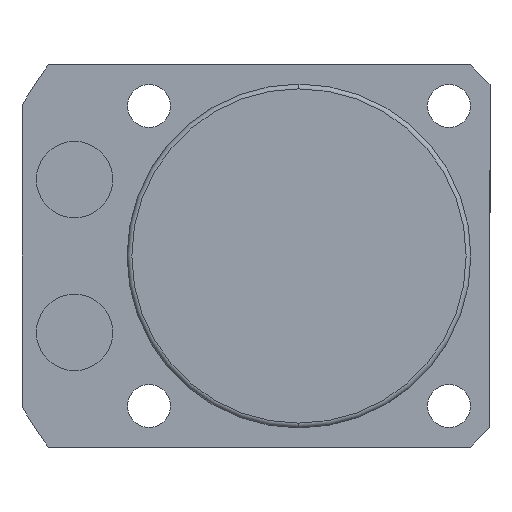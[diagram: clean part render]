
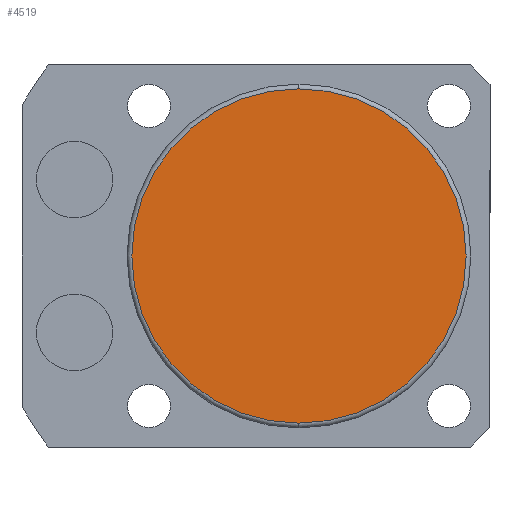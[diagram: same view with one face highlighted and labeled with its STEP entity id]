
A CAD part, front view. The second image highlights one B-rep face of the part: STEP entity #4519.
In plain terms, the highlighted planar face has unit normal (0, -1, 0).
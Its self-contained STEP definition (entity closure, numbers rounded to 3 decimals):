
#1554 = CARTESIAN_POINT ( 'NONE',  ( 0., -110.5, 17.5 ) ) ;
#1577 = CARTESIAN_POINT ( 'NONE',  ( 0., -110.5, 0. ) ) ;
#1967 = AXIS2_PLACEMENT_3D ( 'NONE', #2296, #4611, #4654 ) ;
#2071 = AXIS2_PLACEMENT_3D ( 'NONE', #2284, #4186, #4238 ) ;
#2158 = CARTESIAN_POINT ( 'NONE',  ( 0., -110.5, -17.5 ) ) ;
#2284 = CARTESIAN_POINT ( 'NONE',  ( 0., -110.5, 0. ) ) ;
#2296 = CARTESIAN_POINT ( 'NONE',  ( 0., -110.5, 0. ) ) ;
#2299 = VERTEX_POINT ( 'NONE', #2158 ) ;
#2362 = PLANE ( 'NONE',  #2865 ) ;
#2405 = CIRCLE ( 'NONE', #2071, 17.5 ) ;
#2521 = ORIENTED_EDGE ( 'NONE', *, *, #3977, .T. ) ;
#2638 = CIRCLE ( 'NONE', #1967, 17.5 ) ;
#2865 = AXIS2_PLACEMENT_3D ( 'NONE', #1577, #5087, #5100 ) ;
#2958 = FACE_OUTER_BOUND ( 'NONE', #4166, .T. ) ;
#3246 = VERTEX_POINT ( 'NONE', #1554 ) ;
#3716 = ORIENTED_EDGE ( 'NONE', *, *, #4261, .T. ) ;
#3977 = EDGE_CURVE ( 'NONE', #2299, #3246, #2405, .T. ) ;
#4166 = EDGE_LOOP ( 'NONE', ( #2521, #3716 ) ) ;
#4186 = DIRECTION ( 'NONE',  ( 0., -1., 0. ) ) ;
#4238 = DIRECTION ( 'NONE',  ( 0., 0., -1. ) ) ;
#4261 = EDGE_CURVE ( 'NONE', #3246, #2299, #2638, .T. ) ;
#4519 = ADVANCED_FACE ( 'NONE', ( #2958 ), #2362, .T. ) ;
#4611 = DIRECTION ( 'NONE',  ( 0., -1., 0. ) ) ;
#4654 = DIRECTION ( 'NONE',  ( 0., 0., -1. ) ) ;
#5087 = DIRECTION ( 'NONE',  ( 0., -1., 0. ) ) ;
#5100 = DIRECTION ( 'NONE',  ( 0., 0., -1. ) ) ;
